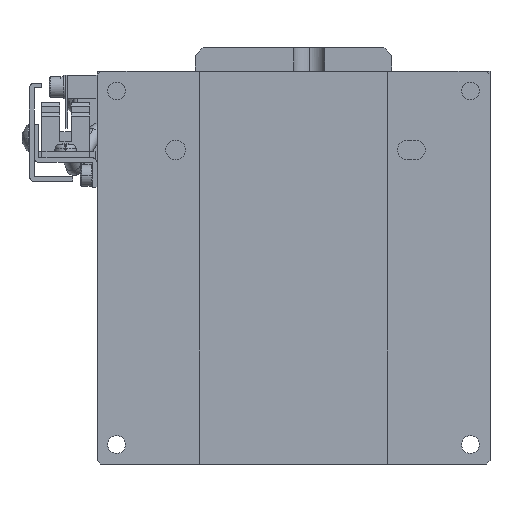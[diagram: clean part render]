
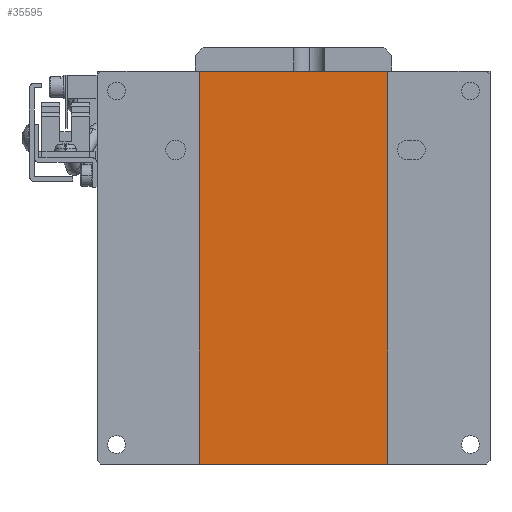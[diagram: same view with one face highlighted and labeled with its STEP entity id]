
A CAD part, front view. The second image highlights one B-rep face of the part: STEP entity #35595.
In plain terms, the highlighted planar face has unit normal (0, -1, 0) as drawn and (1, 0, 0) by its records, which use the part's own axes.
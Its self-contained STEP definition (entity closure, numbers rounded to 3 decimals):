
#280 = CARTESIAN_POINT ( 'NONE',  ( 89.5, -24., 30. ) ) ;
#810 = CARTESIAN_POINT ( 'NONE',  ( 89.5, -24., -70. ) ) ;
#2598 = EDGE_CURVE ( 'NONE', #13437, #56341, #37086, .T. ) ;
#3103 = DIRECTION ( 'NONE',  ( 0., 0., 1. ) ) ;
#4647 = PLANE ( 'NONE',  #62775 ) ;
#4894 = EDGE_CURVE ( 'NONE', #13437, #19864, #25859, .T. ) ;
#5913 = VERTEX_POINT ( 'NONE', #60734 ) ;
#5945 = LINE ( 'NONE', #49552, #55168 ) ;
#12596 = VECTOR ( 'NONE', #30887, 1000. ) ;
#13437 = VERTEX_POINT ( 'NONE', #44498 ) ;
#14438 = FACE_OUTER_BOUND ( 'NONE', #54902, .T. ) ;
#19437 = DIRECTION ( 'NONE',  ( 1., 0., 0. ) ) ;
#19864 = VERTEX_POINT ( 'NONE', #33155 ) ;
#25859 = LINE ( 'NONE', #810, #12596 ) ;
#28115 = ORIENTED_EDGE ( 'NONE', *, *, #28744, .F. ) ;
#28744 = EDGE_CURVE ( 'NONE', #56341, #5913, #44759, .T. ) ;
#29162 = VECTOR ( 'NONE', #46466, 1000. ) ;
#29255 = VECTOR ( 'NONE', #36660, 1000. ) ;
#30887 = DIRECTION ( 'NONE',  ( 0., 1., 0. ) ) ;
#33155 = CARTESIAN_POINT ( 'NONE',  ( 89.5, 24., -70. ) ) ;
#35103 = ORIENTED_EDGE ( 'NONE', *, *, #2598, .F. ) ;
#35180 = ORIENTED_EDGE ( 'NONE', *, *, #4894, .T. ) ;
#35595 = ADVANCED_FACE ( 'NONE', ( #14438 ), #4647, .T. ) ;
#36660 = DIRECTION ( 'NONE',  ( 0., 0., 1. ) ) ;
#37086 = LINE ( 'NONE', #47548, #29255 ) ;
#44498 = CARTESIAN_POINT ( 'NONE',  ( 89.5, -24., -70. ) ) ;
#44759 = LINE ( 'NONE', #280, #29162 ) ;
#46466 = DIRECTION ( 'NONE',  ( 0., 1., 0. ) ) ;
#47548 = CARTESIAN_POINT ( 'NONE',  ( 89.5, -24., -70. ) ) ;
#49552 = CARTESIAN_POINT ( 'NONE',  ( 89.5, 24., -70. ) ) ;
#54831 = DIRECTION ( 'NONE',  ( 0., 0., -1. ) ) ;
#54902 = EDGE_LOOP ( 'NONE', ( #28115, #35103, #35180, #58047 ) ) ;
#55168 = VECTOR ( 'NONE', #3103, 1000. ) ;
#55261 = CARTESIAN_POINT ( 'NONE',  ( 89.5, -24., -70. ) ) ;
#56341 = VERTEX_POINT ( 'NONE', #61623 ) ;
#56983 = EDGE_CURVE ( 'NONE', #19864, #5913, #5945, .T. ) ;
#58047 = ORIENTED_EDGE ( 'NONE', *, *, #56983, .T. ) ;
#60734 = CARTESIAN_POINT ( 'NONE',  ( 89.5, 24., 30. ) ) ;
#61623 = CARTESIAN_POINT ( 'NONE',  ( 89.5, -24., 30. ) ) ;
#62775 = AXIS2_PLACEMENT_3D ( 'NONE', #55261, #19437, #54831 ) ;
